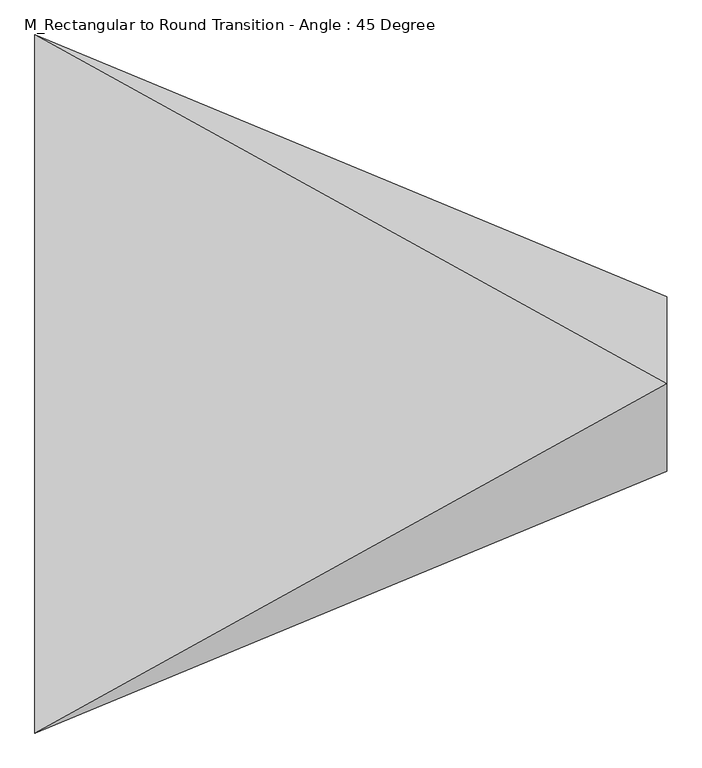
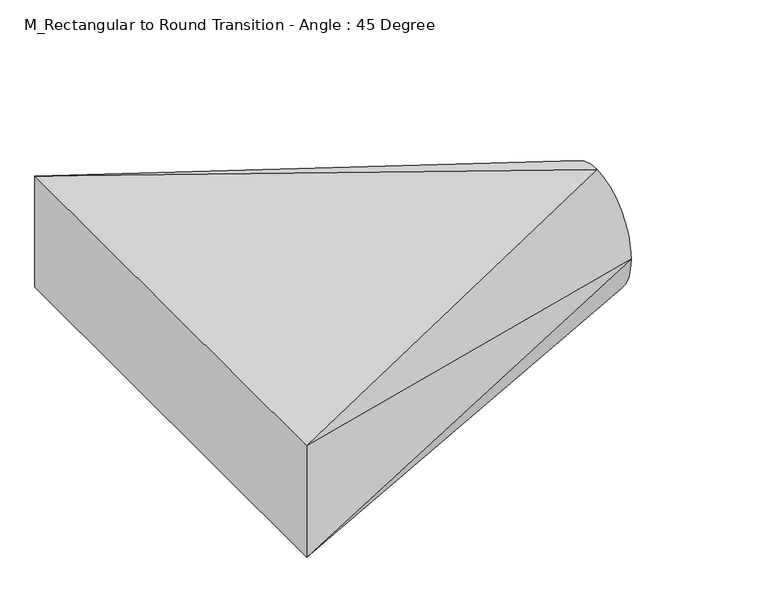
"""IFC4 building model written with IfcOpenShell, lengths in millimetres: duct fitting geometry, M_Rectangular to Round Transition - Angle : 45 Degree."""

import ifcopenshell
import ifcopenshell.guid

model = None  # the IFC model being written
_history = None  # IfcOwnerHistory: only IFC2X3 demands one
_inside = {}  # id of a spatial element -> (the spatial element, [elements in it])
_under = {}  # id of a project, library or spatial element -> (it, [spatial elements below it])
_declared = {}  # id of a project -> (the project, [libraries it declares])
_typed = {}  # id of a type object -> (the type object, [elements of that type])
_made_of = {}  # id of a material, layer set ... -> (it, [elements and type objects made of it])


def new_model(schema):
    """Start an empty IFC model of exactly this schema.

    Asked for "IFC4X3", IfcOpenShell would pick the latest addendum, in which some entities
    have other attributes; the version numbers below select the first issue.
    IFC2X3 requires an IfcOwnerHistory on every rooted entity: one is made here for all.
    """
    global model, _history
    if schema == "IFC4X3":
        model = ifcopenshell.file(schema_version=(4, 3, 0, 0))
    else:
        model = ifcopenshell.file(schema=schema)
    _inside.clear()
    _under.clear()
    _declared.clear()
    _typed.clear()
    _made_of.clear()
    _history = None
    if model.schema == "IFC2X3":
        org = make("IfcOrganization", Name="unknown")
        user = make(
            "IfcPersonAndOrganization",
            ThePerson=make("IfcPerson", FamilyName="unknown"),
            TheOrganization=org,
        )
        app = make(
            "IfcApplication",
            ApplicationDeveloper=org,
            Version="unknown",
            ApplicationFullName="unknown",
            ApplicationIdentifier="unknown",
        )
        _history = make(
            "IfcOwnerHistory",
            OwningUser=user,
            OwningApplication=app,
            ChangeAction="ADDED",
            CreationDate=0,
        )
    return model


def make(cls, **values):
    """One entity of the class cls with the attributes given. An attribute that is None is left unset."""
    return model.create_entity(
        cls, **{name: value for name, value in values.items() if value is not None}
    )


def rooted(cls, **values):
    """An entity with a GlobalId (a new one), such as an element, a storey or a relation."""
    return make(cls, GlobalId=ifcopenshell.guid.new(), OwnerHistory=_history, **values)


def si_unit(unit_type, name, prefix=None):
    """IfcSIUnit, for example si_unit("LENGTHUNIT", "METRE", prefix="MILLI")."""
    return make("IfcSIUnit", UnitType=unit_type, Prefix=prefix, Name=name)


def assignment(units):
    """IfcUnitAssignment: the units of a project."""
    return None if units is None else make("IfcUnitAssignment", Units=units)


def point(xyz):
    """IfcCartesianPoint."""
    return None if xyz is None else make("IfcCartesianPoint", Coordinates=xyz)


def direction(xyz):
    """IfcDirection."""
    return None if xyz is None else make("IfcDirection", DirectionRatios=xyz)


def frame(location, z_axis=None, x_axis=None):
    """IfcAxis2Placement3D, a coordinate frame: its origin and axes. An axis left out is left unset."""
    return make(
        "IfcAxis2Placement3D",
        Location=point(location),
        Axis=direction(z_axis),
        RefDirection=direction(x_axis),
    )


def origin():
    """The frame at (0, 0, 0) with its axes left unset."""
    return frame((0.0, 0.0, 0.0))


def place(relative_to, where):
    """IfcLocalPlacement: puts the frame where relative to a parent placement (None: the world)."""
    return make(
        "IfcLocalPlacement", PlacementRelTo=relative_to, RelativePlacement=where
    )


def context(
    kind, dimensions, precision=None, world=None, true_north=None, identifier=None
):
    """IfcGeometricRepresentationContext, for example the 3D "Model" context."""
    return make(
        "IfcGeometricRepresentationContext",
        ContextIdentifier=identifier,
        ContextType=kind,
        CoordinateSpaceDimension=dimensions,
        Precision=precision,
        WorldCoordinateSystem=world,
        TrueNorth=true_north,
    )


def project(units=None, contexts=None):
    """IfcProject with its units and contexts."""
    return rooted(
        "IfcProject",
        Name="project",
        RepresentationContexts=contexts,
        UnitsInContext=assignment(units),
    )


def spatial(cls, under=None, at=None, **own):
    """A site, building, storey or space (cls), placed at a placement, below another one or the project."""
    s = rooted(cls, ObjectPlacement=at, **own)
    if under is not None:
        _under.setdefault(under.id(), (under, []))[1].append(s)
    return s


def circle_curve(where, radius):
    """IfcCircle in the frame where."""
    return make("IfcCircle", Position=where, Radius=radius)


def shape(context_of_items, identifier, shape_type, items):
    """IfcShapeRepresentation: the items that make up one representation, for example the "Body"."""
    return make(
        "IfcShapeRepresentation",
        ContextOfItems=context_of_items,
        RepresentationIdentifier=identifier,
        RepresentationType=shape_type,
        Items=items,
    )


def source(mapping_origin, context_of_items, identifier, shape_type, items):
    """IfcRepresentationMap: a shape defined once, which mapped items show again and again."""
    return make(
        "IfcRepresentationMap",
        MappingOrigin=mapping_origin,
        MappedRepresentation=shape(context_of_items, identifier, shape_type, items),
    )


def transform(
    local_origin,
    x_axis=None,
    y_axis=None,
    z_axis=None,
    scale=None,
    scale2=None,
    scale3=None,
    uniform=True,
):
    """IfcCartesianTransformationOperator3D, or its non-uniform kind. x_axis, y_axis, z_axis: its Axis1, 2, 3."""
    if uniform:
        return make(
            "IfcCartesianTransformationOperator3D",
            Axis1=direction(x_axis),
            Axis2=direction(y_axis),
            LocalOrigin=point(local_origin),
            Scale=scale,
            Axis3=direction(z_axis),
        )
    return make(
        "IfcCartesianTransformationOperator3DnonUniform",
        Axis1=direction(x_axis),
        Axis2=direction(y_axis),
        LocalOrigin=point(local_origin),
        Scale=scale,
        Axis3=direction(z_axis),
        Scale2=scale2,
        Scale3=scale3,
    )


def mapped(mapping_source, mapping_target):
    """IfcMappedItem: shows the shape of a source again, moved by a transform."""
    return make(
        "IfcMappedItem", MappingSource=mapping_source, MappingTarget=mapping_target
    )


def made_of(thing, what):
    """Note that an element or type object is made of a material, layer set ...; save() writes the relation."""
    if what is not None:
        _made_of.setdefault(what.id(), (what, []))[1].append(thing)
    return thing


def element(
    cls,
    number,
    at=None,
    inside=None,
    cuts=None,
    type_object=None,
    material=None,
    context=None,
    identifier="Body",
    shape_type=None,
    held_by="IfcProductDefinitionShape",
    body=None,
    shapes=None,
    **own,
):
    """One element of the class cls, such as IfcWall. Its Tag is "e" and its number.

    at: its placement. inside: the storey or other place that contains it. cuts: it is an
    opening in that element (IfcRelVoidsElement). A single representation is given by context,
    identifier, shape_type and body (its items); several are given by shapes. held_by: the class
    of the entity that holds the representations. save() writes the other relations.
    """
    e = rooted(cls, Tag="e%d" % number, ObjectPlacement=at, **own)
    if body is not None:
        shapes = [shape(context, identifier, shape_type, body)]
    if shapes is not None:
        e.Representation = make(held_by, Representations=shapes)
    if inside is not None:
        _inside.setdefault(inside.id(), (inside, []))[1].append(e)
    if cuts is not None:
        rooted(
            "IfcRelVoidsElement", RelatingBuildingElement=cuts, RelatedOpeningElement=e
        )
    if type_object is not None:
        _typed.setdefault(type_object.id(), (type_object, []))[1].append(e)
    return made_of(e, material)


def aggregate(whole, parts):
    """IfcRelAggregates: a whole, such as a stair, and the parts it consists of."""
    return rooted("IfcRelAggregates", RelatingObject=whole, RelatedObjects=parts)


def save(model, path):
    """Write the relations noted so far, then the file.

    IfcRelAggregates (storeys below a building ...), IfcRelContainedInSpatialStructure (elements
    in a storey), IfcRelDefinesByType, IfcRelAssociatesMaterial and IfcRelDeclares: one each for
    every whole, place, type object, material and project.
    """
    for whole, parts in _under.values():
        aggregate(whole, parts)
    for where, things in _inside.values():
        rooted(
            "IfcRelContainedInSpatialStructure",
            RelatedElements=things,
            RelatingStructure=where,
        )
    for kind, things in _typed.values():
        rooted("IfcRelDefinesByType", RelatedObjects=things, RelatingType=kind)
    for what, things in _made_of.values():
        rooted("IfcRelAssociatesMaterial", RelatedObjects=things, RelatingMaterial=what)
    for by, libraries in _declared.values():
        rooted("IfcRelDeclares", RelatingContext=by, RelatedDefinitions=libraries)
    model.write(path)


def plane_surface(at):
    """IfcPlane: the flat surface through the origin of the frame at, square to its z axis."""
    return make("IfcPlane", Position=at)


def spline_surface(u_degree, v_degree, points, u_multiplicities, v_multiplicities, u_knots, v_knots, weights=None):
    """IfcBSplineSurfaceWithKnots; with weights, IfcRationalBSplineSurfaceWithKnots. points: one row for each step in u."""
    own = dict(
        UDegree=u_degree,
        VDegree=v_degree,
        ControlPointsList=[[point(p) for p in row] for row in points],
        SurfaceForm="UNSPECIFIED",
        UClosed=False,
        VClosed=False,
        SelfIntersect=False,
        UMultiplicities=u_multiplicities,
        VMultiplicities=v_multiplicities,
        UKnots=u_knots,
        VKnots=v_knots,
        KnotSpec="UNSPECIFIED",
    )
    if weights is None:
        return make("IfcBSplineSurfaceWithKnots", **own)
    return make("IfcRationalBSplineSurfaceWithKnots", WeightsData=weights, **own)


def advanced_brep(points, edges, surfaces, faces):
    """IfcAdvancedBrep: a solid bounded by faces that lie on surfaces and meet in shared edges.

    An edge is (start, end): straight between two places in points (the first is 0);
    or (start, end, curve); or (start, end, curve, False) where it runs against its curve.
    A face is (place in surfaces, loops), or (place, loops, False) where it looks against
    its surface's normal. A loop lists edges by number (the first is 1), with a minus sign
    where the edge is run from its end to its start. The first loop is the outer one.
    """
    corners = [point(p) for p in points]
    vertices = [make("IfcVertexPoint", VertexGeometry=c) for c in corners]
    made = []
    for start, end, *more in edges:
        made.append(
            make(
                "IfcEdgeCurve",
                EdgeStart=vertices[start],
                EdgeEnd=vertices[end],
                EdgeGeometry=more[0] if more else make("IfcPolyline", Points=[corners[start], corners[end]]),
                SameSense=more[1] if len(more) > 1 else True,
            )
        )
    hull = []
    for where, loops, *sense in faces:
        bounds = []
        for j, loop in enumerate(loops):
            ring = [make("IfcOrientedEdge", EdgeElement=made[abs(k) - 1], Orientation=k > 0) for k in loop]
            bounds.append(
                make(
                    "IfcFaceOuterBound" if j == 0 else "IfcFaceBound",
                    Bound=make("IfcEdgeLoop", EdgeList=ring),
                    Orientation=True,
                )
            )
        hull.append(make("IfcAdvancedFace", Bounds=bounds, FaceSurface=surfaces[where], SameSense=sense[0] if sense else True))
    return make("IfcAdvancedBrep", Outer=make("IfcClosedShell", CfsFaces=hull))


def m_rectangular_to_round_transition_angle_45_degree_f32b718d(model_context):
    return source(origin(), model_context, "Body", "AdvancedBrep", [
        advanced_brep(
        [(0.0, -600.0, -150.0), (0.0, -600.0, 150.0), (0.0, 600.0, 150.0), (0.0, 600.0, -150.0), (1086.3961031, -150.0, 0.0), (1086.3961031, 0.0, -150.0), (1086.3961031, 150.0, 0.0), (1086.3961031, 0.0, 150.0)],
        [
            (0, 1),
            (1, 2),
            (2, 3),
            (3, 0),
            (4, 5, circle_curve(frame((1086.3961031, 0.0, 0.0), z_axis=(1.0, 0.0, 0.0), x_axis=(0.0, -1.0, 0.0)), 150.0)),
            (5, 6, circle_curve(frame((1086.3961031, 0.0, 0.0), z_axis=(1.0, 0.0, 0.0), x_axis=(0.0, -1.0, 0.0)), 150.0)),
            (6, 7, circle_curve(frame((1086.3961031, 0.0, 0.0), z_axis=(1.0, 0.0, 0.0), x_axis=(0.0, -1.0, 0.0)), 150.0)),
            (7, 4, circle_curve(frame((1086.3961031, 0.0, 0.0), z_axis=(1.0, 0.0, 0.0), x_axis=(0.0, -1.0, 0.0)), 150.0)),
            (0, 4),
            (4, 1),
            (7, 1),
            (7, 2),
            (6, 2),
            (6, 3),
            (5, 3),
            (5, 0),
        ],
        [
            plane_surface(frame((0.0, 0.0, 0.0), z_axis=(-1.0, 0.0, 0.0), x_axis=(0.0, 1.0, 0.0))),
            plane_surface(frame((1086.3961031, 0.0, 0.0), z_axis=(1.0, 0.0, 0.0), x_axis=(0.0, 1.0, 0.0))),
            plane_surface(frame((1086.3961031, -150.0, 0.0), z_axis=(0.38268343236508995, -0.9238795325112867, 0.0), x_axis=(0.0, 0.0, 1.0))),
            spline_surface(2, 1, [[(1086.3961031, -150.0, 0.0), (0.0, -600.0, 150.0)], [(1086.3961031, -150.0, 150.0), (0.0, -600.0, 150.0)], [(1086.3961031, 0.0, 150.0), (0.0, -600.0, 150.0)]], [3, 3], [2, 2], [0.0, 1.0], [0.0, 1.0], weights=[[1.0, 1.0], [0.7071067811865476, 0.7071067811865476], [1.0, 1.0]]),
            plane_surface(frame((1086.3961031, 0.0, 150.0), z_axis=(0.0, 0.0, 1.0), x_axis=(0.0, 1.0, 0.0))),
            spline_surface(2, 1, [[(1086.3961031, 0.0, 150.0), (0.0, 600.0, 150.0)], [(1086.3961031, 150.0, 150.0), (0.0, 600.0, 150.0)], [(1086.3961031, 150.0, 0.0), (0.0, 600.0, 150.0)]], [3, 3], [2, 2], [0.0, 1.0], [0.0, 1.0], weights=[[1.0, 1.0], [0.7071067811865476, 0.7071067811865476], [1.0, 1.0]]),
            plane_surface(frame((1086.3961031, 150.0, 0.0), z_axis=(0.3826834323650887, 0.9238795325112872, 0.0), x_axis=(0.0, 0.0, -1.0))),
            spline_surface(2, 1, [[(1086.3961031, 150.0, 0.0), (0.0, 600.0, -150.0)], [(1086.3961031, 150.0, -150.0), (0.0, 600.0, -150.0)], [(1086.3961031, 0.0, -150.0), (0.0, 600.0, -150.0)]], [3, 3], [2, 2], [0.0, 1.0], [0.0, 1.0], weights=[[1.0, 1.0], [0.7071067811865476, 0.7071067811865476], [1.0, 1.0]]),
            plane_surface(frame((1086.3961031, 0.0, -150.0), z_axis=(0.0, 0.0, -1.0), x_axis=(0.0, -1.0, 0.0))),
            spline_surface(2, 1, [[(1086.3961031, 0.0, -150.0), (0.0, -600.0, -150.0)], [(1086.3961031, -150.0, -150.0), (0.0, -600.0, -150.0)], [(1086.3961031, -150.0, 0.0), (0.0, -600.0, -150.0)]], [3, 3], [2, 2], [0.0, 1.0], [0.0, 1.0], weights=[[1.0, 1.0], [0.7071067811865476, 0.7071067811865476], [1.0, 1.0]]),
        ],
        [
            (0, [[1, 2, 3, 4]]),
            (1, [[5, 6, 7, 8]]),
            (2, [[-1, 9, 10]]),
            (3, [[-8, 11, -10]]),
            (4, [[-2, -11, 12]]),
            (5, [[-7, 13, -12]]),
            (6, [[-3, -13, 14]]),
            (7, [[-6, 15, -14]]),
            (8, [[-4, -15, 16]]),
            (9, [[-5, -9, -16]]),
        ],
    ),
        advanced_brep(
        [(0.0, -600.0, -150.0), (0.0, -600.0, 150.0), (0.0, 600.0, 150.0), (0.0, 600.0, -150.0), (1086.3961031, -150.0, 0.0), (1086.3961031, 0.0, -150.0), (1086.3961031, 150.0, 0.0), (1086.3961031, 0.0, 150.0)],
        [
            (0, 1),
            (1, 2),
            (2, 3),
            (3, 0),
            (4, 5, circle_curve(frame((1086.3961031, 0.0, 0.0), z_axis=(1.0, 0.0, 0.0), x_axis=(0.0, -1.0, 0.0)), 150.0)),
            (5, 6, circle_curve(frame((1086.3961031, 0.0, 0.0), z_axis=(1.0, 0.0, 0.0), x_axis=(0.0, -1.0, 0.0)), 150.0)),
            (6, 7, circle_curve(frame((1086.3961031, 0.0, 0.0), z_axis=(1.0, 0.0, 0.0), x_axis=(0.0, -1.0, 0.0)), 150.0)),
            (7, 4, circle_curve(frame((1086.3961031, 0.0, 0.0), z_axis=(1.0, 0.0, 0.0), x_axis=(0.0, -1.0, 0.0)), 150.0)),
            (0, 4),
            (4, 1),
            (7, 1),
            (7, 2),
            (6, 2),
            (6, 3),
            (5, 3),
            (5, 0),
        ],
        [
            plane_surface(frame((0.0, 0.0, 0.0), z_axis=(-1.0, 0.0, 0.0), x_axis=(0.0, 1.0, 0.0))),
            plane_surface(frame((1086.3961031, 0.0, 0.0), z_axis=(1.0, 0.0, 0.0), x_axis=(0.0, 1.0, 0.0))),
            plane_surface(frame((1086.3961031, -150.0, 0.0), z_axis=(0.38268343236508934, -0.923879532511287, 0.0), x_axis=(0.0, 0.0, 1.0))),
            spline_surface(2, 1, [[(1086.3961031, -150.0, 0.0), (0.0, -600.0, 150.0)], [(1086.3961031, -150.0, 150.0), (0.0, -600.0, 150.0)], [(1086.3961031, 0.0, 150.0), (0.0, -600.0, 150.0)]], [3, 3], [2, 2], [0.0, 1.0], [0.0, 1.0], weights=[[1.0, 1.0], [0.7071067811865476, 0.7071067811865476], [1.0, 1.0]]),
            plane_surface(frame((1086.3961031, 0.0, 150.0), z_axis=(0.0, 0.0, 1.0), x_axis=(0.0, 1.0, 0.0))),
            spline_surface(2, 1, [[(1086.3961031, 0.0, 150.0), (0.0, 600.0, 150.0)], [(1086.3961031, 150.0, 150.0), (0.0, 600.0, 150.0)], [(1086.3961031, 150.0, 0.0), (0.0, 600.0, 150.0)]], [3, 3], [2, 2], [0.0, 1.0], [0.0, 1.0], weights=[[1.0, 1.0], [0.7071067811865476, 0.7071067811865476], [1.0, 1.0]]),
            plane_surface(frame((1086.3961031, 150.0, 0.0), z_axis=(0.3826834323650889, 0.9238795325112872, 0.0), x_axis=(0.0, 0.0, -1.0))),
            spline_surface(2, 1, [[(1086.3961031, 150.0, 0.0), (0.0, 600.0, -150.0)], [(1086.3961031, 150.0, -150.0), (0.0, 600.0, -150.0)], [(1086.3961031, 0.0, -150.0), (0.0, 600.0, -150.0)]], [3, 3], [2, 2], [0.0, 1.0], [0.0, 1.0], weights=[[1.0, 1.0], [0.7071067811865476, 0.7071067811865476], [1.0, 1.0]]),
            plane_surface(frame((1086.3961031, 0.0, -150.0), z_axis=(0.0, 0.0, -1.0), x_axis=(0.0, -1.0, 0.0))),
            spline_surface(2, 1, [[(1086.3961031, 0.0, -150.0), (0.0, -600.0, -150.0)], [(1086.3961031, -150.0, -150.0), (0.0, -600.0, -150.0)], [(1086.3961031, -150.0, 0.0), (0.0, -600.0, -150.0)]], [3, 3], [2, 2], [0.0, 1.0], [0.0, 1.0], weights=[[1.0, 1.0], [0.7071067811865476, 0.7071067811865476], [1.0, 1.0]]),
        ],
        [
            (0, [[1, 2, 3, 4]]),
            (1, [[5, 6, 7, 8]]),
            (2, [[-1, 9, 10]]),
            (3, [[-8, 11, -10]]),
            (4, [[-2, -11, 12]]),
            (5, [[-7, 13, -12]]),
            (6, [[-3, -13, 14]]),
            (7, [[-6, 15, -14]]),
            (8, [[-4, -15, 16]]),
            (9, [[-5, -9, -16]]),
        ],
    ),
        advanced_brep(
        [(1086.3961031, 0.0, 150.0), (1086.3961031, -150.0, 0.0), (1086.3961031, 0.0, -150.0), (1086.3961031, 150.0, 0.0), (0.0, -600.0, 150.0), (0.0, 600.0, 150.0), (0.0, 600.0, -150.0), (0.0, -600.0, -150.0)],
        [
            (0, 1, circle_curve(frame((1086.3961031, 0.0, 0.0), z_axis=(1.0, 0.0, 0.0), x_axis=(0.0, 1.0, 0.0)), 150.0)),
            (1, 2, circle_curve(frame((1086.3961031, 0.0, 0.0), z_axis=(1.0, 0.0, 0.0), x_axis=(0.0, 1.0, 0.0)), 150.0)),
            (2, 3, circle_curve(frame((1086.3961031, 0.0, 0.0), z_axis=(1.0, 0.0, 0.0), x_axis=(0.0, 1.0, 0.0)), 150.0)),
            (3, 0, circle_curve(frame((1086.3961031, 0.0, 0.0), z_axis=(1.0, 0.0, 0.0), x_axis=(0.0, 1.0, 0.0)), 150.0)),
            (4, 5),
            (5, 6),
            (6, 7),
            (7, 4),
            (0, 4),
            (4, 1),
            (7, 1),
            (7, 2),
            (6, 2),
            (6, 3),
            (5, 3),
            (5, 0),
        ],
        [
            plane_surface(frame((1086.3961031, 0.0, 0.0), z_axis=(1.0, 0.0, 0.0), x_axis=(0.0, 0.0, -1.0))),
            plane_surface(frame((0.0, 0.0, 0.0), z_axis=(-1.0, 0.0, 0.0), x_axis=(0.0, 0.0, -1.0))),
            spline_surface(2, 1, [[(0.0, -600.0, 150.0), (1086.3961031, 0.0, 150.0)], [(0.0, -600.0, 150.0), (1086.3961031, -150.0, 150.0)], [(0.0, -600.0, 150.0), (1086.3961031, -150.0, 0.0)]], [3, 3], [2, 2], [0.0, 1.0], [0.0, 1.0], weights=[[1.0, 1.0], [0.7071067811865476, 0.7071067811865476], [1.0, 1.0]]),
            plane_surface(frame((0.0, -600.0, 0.0), z_axis=(0.38268343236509, -0.9238795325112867, 0.0), x_axis=(0.0, 0.0, -1.0))),
            spline_surface(2, 1, [[(0.0, -600.0, -150.0), (1086.3961031, -150.0, 0.0)], [(0.0, -600.0, -150.0), (1086.3961031, -150.0, -150.0)], [(0.0, -600.0, -150.0), (1086.3961031, 0.0, -150.0)]], [3, 3], [2, 2], [0.0, 1.0], [0.0, 1.0], weights=[[1.0, 1.0], [0.7071067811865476, 0.7071067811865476], [1.0, 1.0]]),
            plane_surface(frame((0.0, 0.0, -150.0), z_axis=(0.0, 0.0, -1.0), x_axis=(0.0, 1.0, 0.0))),
            spline_surface(2, 1, [[(0.0, 600.0, -150.0), (1086.3961031, 0.0, -150.0)], [(0.0, 600.0, -150.0), (1086.3961031, 150.0, -150.0)], [(0.0, 600.0, -150.0), (1086.3961031, 150.0, 0.0)]], [3, 3], [2, 2], [0.0, 1.0], [0.0, 1.0], weights=[[1.0, 1.0], [0.7071067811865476, 0.7071067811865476], [1.0, 1.0]]),
            plane_surface(frame((0.0, 600.0, 0.0), z_axis=(0.3826834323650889, 0.9238795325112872, 0.0), x_axis=(0.0, 0.0, 1.0))),
            spline_surface(2, 1, [[(0.0, 600.0, 150.0), (1086.3961031, 150.0, 0.0)], [(0.0, 600.0, 150.0), (1086.3961031, 150.0, 150.0)], [(0.0, 600.0, 150.0), (1086.3961031, 0.0, 150.0)]], [3, 3], [2, 2], [0.0, 1.0], [0.0, 1.0], weights=[[1.0, 1.0], [0.7071067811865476, 0.7071067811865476], [1.0, 1.0]]),
            plane_surface(frame((0.0, 0.0, 150.0), z_axis=(0.0, 0.0, 1.0), x_axis=(0.0, -1.0, 0.0))),
        ],
        [
            (0, [[1, 2, 3, 4]]),
            (1, [[5, 6, 7, 8]]),
            (2, [[-1, 9, 10]]),
            (3, [[-8, 11, -10]]),
            (4, [[-2, -11, 12]]),
            (5, [[-7, 13, -12]]),
            (6, [[-3, -13, 14]]),
            (7, [[-6, 15, -14]]),
            (8, [[-4, -15, 16]]),
            (9, [[-5, -9, -16]]),
        ],
    ),
    ])


if __name__ == "__main__":
    model = new_model("IFC4")
    model_context = context("Model", 3, world=origin())
    ifc_project = project(units=[si_unit("LENGTHUNIT", "METRE", prefix="MILLI")], contexts=[model_context])
    site = spatial("IfcSite", under=ifc_project)
    building = spatial("IfcBuilding", under=site)
    placement = place(None, origin())
    m_rectangular_to_round_transition_angle_45_degree_shape = m_rectangular_to_round_transition_angle_45_degree_f32b718d(model_context)
    element("IfcDuctFitting", 1, ObjectType="M_Rectangular to Round Transition - Angle : 45 Degree", at=placement, inside=building, context=model_context, shape_type="MappedRepresentation", body=[
        mapped(m_rectangular_to_round_transition_angle_45_degree_shape, transform((0.0, 0.0, 0.0), x_axis=(1.0, 0.0, 0.0), y_axis=(0.0, 1.0, 0.0), z_axis=(0.0, 0.0, 1.0))),
    ])
    save(model, "model.ifc")
